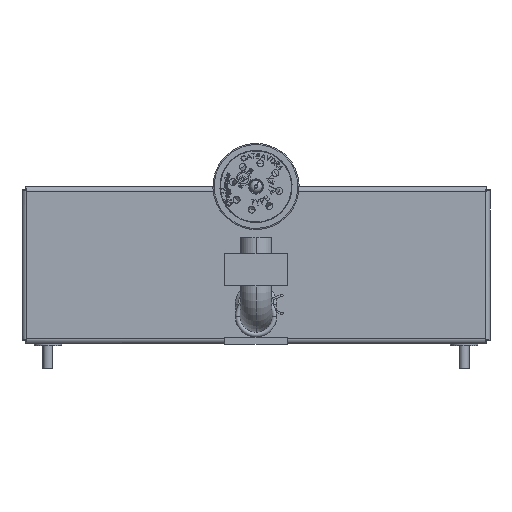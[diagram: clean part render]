
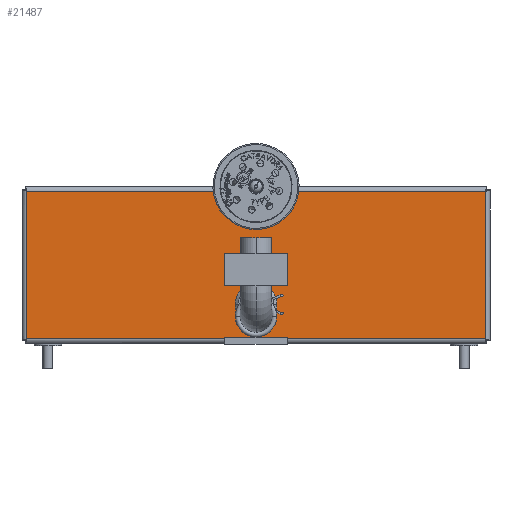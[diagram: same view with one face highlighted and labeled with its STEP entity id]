
A CAD part, front view. The second image highlights one B-rep face of the part: STEP entity #21487.
In plain terms, the highlighted planar face has unit normal (0, -1, 0).
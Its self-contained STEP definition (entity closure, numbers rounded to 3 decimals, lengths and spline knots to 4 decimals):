
#5297 = ORIENTED_EDGE ( 'NONE', *, *, #27160, .T. ) ;
#5298 = ORIENTED_EDGE ( 'NONE', *, *, #27095, .F. ) ;
#5299 = ORIENTED_EDGE ( 'NONE', *, *, #27188, .T. ) ;
#5303 = ORIENTED_EDGE ( 'NONE', *, *, #27156, .F. ) ;
#5319 = ORIENTED_EDGE ( 'NONE', *, *, #27066, .F. ) ;
#5320 = ORIENTED_EDGE ( 'NONE', *, *, #27106, .F. ) ;
#8115 = EDGE_LOOP ( 'NONE', ( #5297, #5298, #5303, #5299 ) ) ;
#8118 = EDGE_LOOP ( 'NONE', ( #5319, #5320 ) ) ;
#9508 = VERTEX_POINT ( 'NONE', #10676 ) ;
#9527 = VERTEX_POINT ( 'NONE', #10697 ) ;
#10676 = CARTESIAN_POINT ( 'NONE',  ( -3.6398, 0., 0. ) ) ;
#10697 = CARTESIAN_POINT ( 'NONE',  ( 0.3324, 0., -1.796 ) ) ;
#11514 = CARTESIAN_POINT ( 'NONE',  ( -0.3324, 0., -1.796 ) ) ;
#11604 = CARTESIAN_POINT ( 'NONE',  ( -3.6398, 0., -2.342 ) ) ;
#11638 = CARTESIAN_POINT ( 'NONE',  ( 3.6397, 0., -2.342 ) ) ;
#11741 = CARTESIAN_POINT ( 'NONE',  ( 3.6397, 0., 0. ) ) ;
#16379 = VERTEX_POINT ( 'NONE', #11514 ) ;
#16426 = VERTEX_POINT ( 'NONE', #11604 ) ;
#16460 = VERTEX_POINT ( 'NONE', #11638 ) ;
#16563 = VERTEX_POINT ( 'NONE', #11741 ) ;
#20776 = FACE_OUTER_BOUND ( 'NONE', #8115, .T. ) ;
#20784 = FACE_BOUND ( 'NONE', #8118, .T. ) ;
#21487 = ADVANCED_FACE ( 'NONE', ( #20776, #20784 ), #22201, .F. ) ;
#22200 = CARTESIAN_POINT ( 'NONE',  ( 3.7187, 0., -2.342 ) ) ;
#22201 = PLANE ( 'NONE',  #39603 ) ;
#22203 = DIRECTION ( 'NONE',  ( 0., 1., 0. ) ) ;
#22204 = DIRECTION ( 'NONE',  ( 0., 0., 1. ) ) ;
#27066 = EDGE_CURVE ( 'NONE', #16379, #9527, #38182, .T. ) ;
#27095 = EDGE_CURVE ( 'NONE', #16426, #9508, #38214, .T. ) ;
#27106 = EDGE_CURVE ( 'NONE', #9527, #16379, #38238, .T. ) ;
#27156 = EDGE_CURVE ( 'NONE', #16460, #16426, #38283, .T. ) ;
#27160 = EDGE_CURVE ( 'NONE', #16563, #9508, #38296, .T. ) ;
#27188 = EDGE_CURVE ( 'NONE', #16460, #16563, #38334, .T. ) ;
#37238 = CARTESIAN_POINT ( 'NONE',  ( 0., 0., -1.796 ) ) ;
#37239 = DIRECTION ( 'NONE',  ( 0., -1., 0. ) ) ;
#37240 = DIRECTION ( 'NONE',  ( 0., 0., 1. ) ) ;
#37322 = CARTESIAN_POINT ( 'NONE',  ( -3.6398, 0., -2.342 ) ) ;
#37323 = DIRECTION ( 'NONE',  ( 0., 0., 1. ) ) ;
#37360 = CARTESIAN_POINT ( 'NONE',  ( 0., 0., -1.796 ) ) ;
#37367 = DIRECTION ( 'NONE',  ( 0., -1., 0. ) ) ;
#37368 = DIRECTION ( 'NONE',  ( 0., 0., 1. ) ) ;
#37400 = AXIS2_PLACEMENT_3D ( 'NONE', #37238, #37239, #37240 ) ;
#37415 = AXIS2_PLACEMENT_3D ( 'NONE', #37360, #37367, #37368 ) ;
#38182 = CIRCLE ( 'NONE', #37400, 0.3324 ) ;
#38213 = VECTOR ( 'NONE', #37323, 39.3701 ) ;
#38214 = LINE ( 'NONE', #37322, #38213 ) ;
#38238 = CIRCLE ( 'NONE', #37415, 0.3324 ) ;
#38283 = LINE ( 'NONE', #40581, #38290 ) ;
#38290 = VECTOR ( 'NONE', #40582, 39.3701 ) ;
#38296 = LINE ( 'NONE', #40590, #38297 ) ;
#38297 = VECTOR ( 'NONE', #40591, 39.3701 ) ;
#38334 = LINE ( 'NONE', #40681, #38335 ) ;
#38335 = VECTOR ( 'NONE', #40682, 39.3701 ) ;
#39603 = AXIS2_PLACEMENT_3D ( 'NONE', #22200, #22203, #22204 ) ;
#40581 = CARTESIAN_POINT ( 'NONE',  ( 3.7187, 0., -2.342 ) ) ;
#40582 = DIRECTION ( 'NONE',  ( -1., 0., 0. ) ) ;
#40590 = CARTESIAN_POINT ( 'NONE',  ( 3.7187, 0., 0. ) ) ;
#40591 = DIRECTION ( 'NONE',  ( -1., 0., 0. ) ) ;
#40681 = CARTESIAN_POINT ( 'NONE',  ( 3.6397, 0., -2.342 ) ) ;
#40682 = DIRECTION ( 'NONE',  ( 0., 0., 1. ) ) ;
